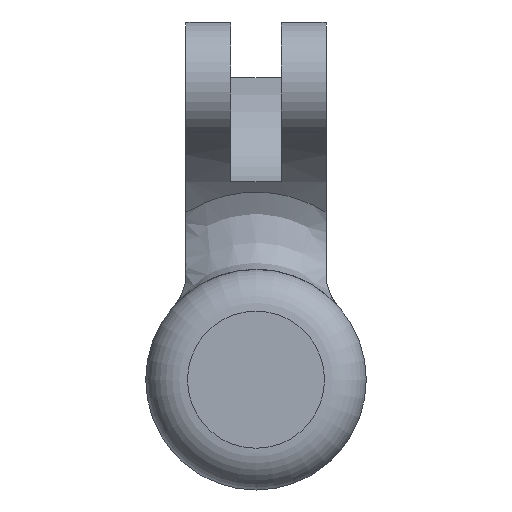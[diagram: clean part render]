
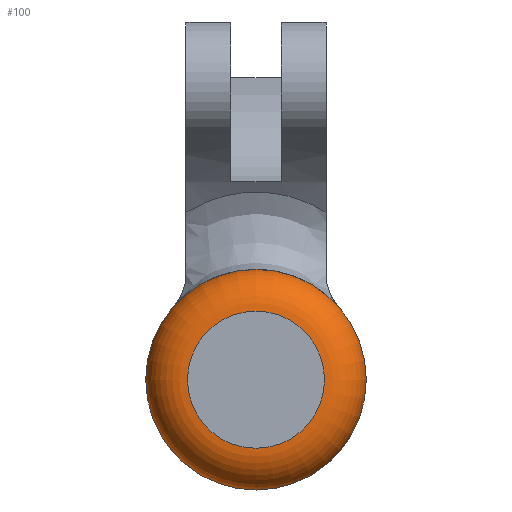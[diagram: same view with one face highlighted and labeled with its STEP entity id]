
A CAD part, front view. The second image highlights one B-rep face of the part: STEP entity #100.
In plain terms, the highlighted toroidal (fillet/blend) face has major radius 11.5 mm and minor radius 7 mm.
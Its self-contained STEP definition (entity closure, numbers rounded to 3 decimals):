
#34=TOROIDAL_SURFACE('',#431,11.5,7.);
#71=FACE_BOUND('',#154,.T.);
#72=FACE_BOUND('',#155,.T.);
#100=ADVANCED_FACE('',(#71,#72),#34,.T.);
#154=EDGE_LOOP('',(#267));
#155=EDGE_LOOP('',(#268));
#175=CIRCLE('',#404,18.5);
#176=CIRCLE('',#406,11.5);
#267=ORIENTED_EDGE('',*,*,#335,.F.);
#268=ORIENTED_EDGE('',*,*,#340,.F.);
#299=VERTEX_POINT('',#571);
#304=VERTEX_POINT('',#600);
#335=EDGE_CURVE('',#299,#299,#175,.T.);
#340=EDGE_CURVE('',#304,#304,#176,.T.);
#404=AXIS2_PLACEMENT_3D('',#570,#463,#464);
#406=AXIS2_PLACEMENT_3D('',#599,#469,#470);
#431=AXIS2_PLACEMENT_3D('',#801,#525,#526);
#463=DIRECTION('',(0.,1.,0.));
#464=DIRECTION('',(0.,0.,-1.));
#469=DIRECTION('',(0.,-1.,0.));
#470=DIRECTION('',(0.,0.,-1.));
#525=DIRECTION('',(0.,-1.,0.));
#526=DIRECTION('',(0.,0.,-1.));
#570=CARTESIAN_POINT('',(0.,-78.,0.));
#571=CARTESIAN_POINT('',(0.,-78.,-18.5));
#599=CARTESIAN_POINT('',(0.,-85.,0.));
#600=CARTESIAN_POINT('',(0.,-85.,-11.5));
#801=CARTESIAN_POINT('',(0.,-78.,0.));
